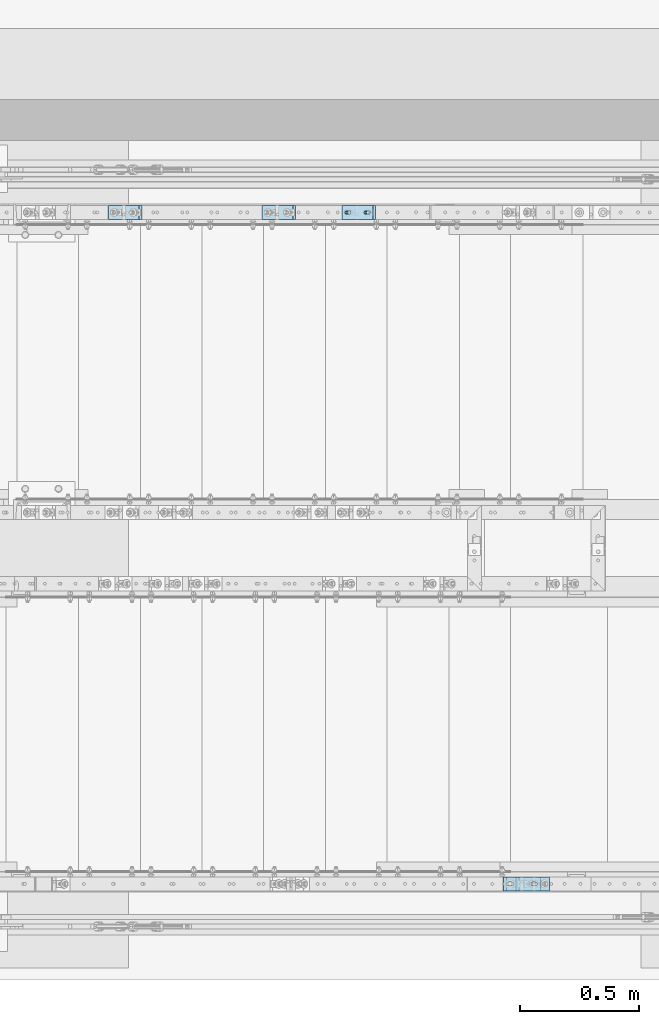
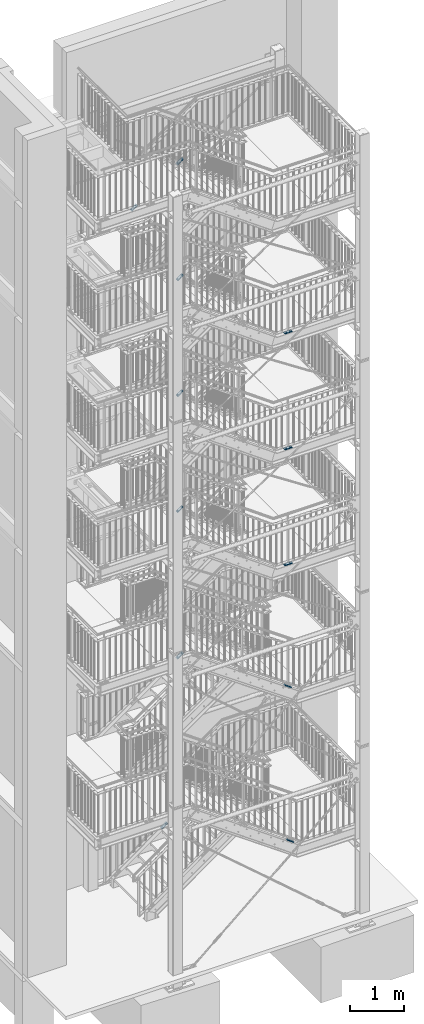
# One storey, part 193 of 821: 12 plates, 24 openings.
"""IFC2X3 building model written with IfcOpenShell, lengths in millimetres."""

from ifc_helpers import new_model, entity, si_unit, converted_unit, point, frame, frame_2d, origin, origin_with_axes, place, context, project, spatial, polyline, circle_curve, line_curve, trimmed, segment, composite_curve, outline, extrude, material, layer, layer_set, element, save


model = new_model("IFC2X3")

# Units and contexts
model_context = context("Model", 3, precision=1e-09, world=origin_with_axes())
ifc_project = project(units=[si_unit("LENGTHUNIT", "METRE", prefix="MILLI"), si_unit("AREAUNIT", "SQUARE_METRE"), si_unit("VOLUMEUNIT", "CUBIC_METRE"), converted_unit("PLANEANGLEUNIT", "DEGREE", entity("IfcPlaneAngleMeasure", 0.01745329), si_unit("PLANEANGLEUNIT", "RADIAN"), dimensions=[0, 0, 0, 0, 0, 0, 0])], contexts=[model_context])

# Site, building, storey
site_placement = place(None, origin_with_axes())
site = spatial("IfcSite", under=ifc_project, at=site_placement, Name="Cnopf'sche Kinderklinik", CompositionType="ELEMENT")
building_placement = place(site_placement, origin_with_axes())
building = spatial("IfcBuilding", under=site, at=building_placement, Name="Struktur 1", CompositionType="ELEMENT")
storey_placement = place(building_placement, origin_with_axes())
storey = spatial("IfcBuildingStorey", under=building, at=storey_placement, Name="Default Storey", CompositionType="ELEMENT", Elevation=0.0)

# Plate, openings
ifc_material = material(Name="S235JR")
ifc_layer = layer(ifc_material, 20.0)
ifc_layer_set = layer_set([ifc_layer], Name="S235JR")
plate_1_placement = place(None, frame((6411.464687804, 7386.736971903, 1391.461592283), z_axis=(-0.579973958, 0.0, 0.814635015), x_axis=(-0.814635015, 0.0, -0.579973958)))
plate_1 = element("IfcPlate", 1, at=plate_1_placement, inside=storey, material=ifc_layer_set, Name="Plate#501", ObjectType="Plate#501", context=model_context, shape_type="SweptSolid", body=[
    extrude(outline(polyline([(0.0, 0.0), (160.0, 0.0), (160.0, 60.0), (0.0, 60.0), (0.0, 0.0)])), origin_with_axes(), (0.0, 0.0, 1.0), 20.0),
])
opening_1_placement = place(plate_1_placement, frame((38.0, 37.001, 20.5), z_axis=(0.0, 0.0, 1.0), x_axis=(-1.0, 0.0, 0.0)))
element("IfcOpeningElement", 2, at=opening_1_placement, cuts=plate_1, ObjectType="Opening", context=model_context, shape_type="SweptSolid", body=[
    extrude(outline(composite_curve([segment(trimmed(line_curve((0.0, 0.0), (1.0, 0.0), 16.0), [point((0.0, 0.0))], [point((16.0, 0.0))], True, "CARTESIAN"), True, "CONTINUOUS"), segment(trimmed(circle_curve(frame_2d((16.0, 7.001), x_axis=(1.0, 0.0)), 7.001), [point((16.0, 0.0))], [point((16.0, 14.002))], True, "CARTESIAN"), True, "CONTINUOUS"), segment(trimmed(line_curve((16.0, 14.002), (-1.0, 0.0), 16.0), [point((16.0, 14.002))], [point((0.0, 14.002))], True, "CARTESIAN"), True, "CONTINUOUS"), segment(trimmed(circle_curve(frame_2d((0.0, 7.001), x_axis=(1.0, 0.0)), 7.001), [point((0.0, 14.002))], [point((0.0, 0.0))], True, "CARTESIAN"), True, "CONTINUOUS")], self_intersect=False)), origin(), (0.0, 0.0, -1.0), 21.0),
])
opening_2_placement = place(plate_1_placement, frame((138.0, 37.001, 20.5), z_axis=(0.0, 0.0, 1.0), x_axis=(-1.0, 0.0, 0.0)))
element("IfcOpeningElement", 3, at=opening_2_placement, cuts=plate_1, ObjectType="Opening", context=model_context, shape_type="SweptSolid", body=[
    extrude(outline(composite_curve([segment(trimmed(line_curve((0.0, 0.0), (1.0, 0.0), 16.0), [point((0.0, 0.0))], [point((16.0, 0.0))], True, "CARTESIAN"), True, "CONTINUOUS"), segment(trimmed(circle_curve(frame_2d((16.0, 7.001), x_axis=(1.0, 0.0)), 7.001), [point((16.0, 0.0))], [point((16.0, 14.002))], True, "CARTESIAN"), True, "CONTINUOUS"), segment(trimmed(line_curve((16.0, 14.002), (-1.0, 0.0), 16.0), [point((16.0, 14.002))], [point((0.0, 14.002))], True, "CARTESIAN"), True, "CONTINUOUS"), segment(trimmed(circle_curve(frame_2d((0.0, 7.001), x_axis=(1.0, 0.0)), 7.001), [point((0.0, 14.002))], [point((0.0, 0.0))], True, "CARTESIAN"), True, "CONTINUOUS")], self_intersect=False)), origin(), (0.0, 0.0, -1.0), 21.0),
])

plate_2_placement = place(None, frame((7340.422294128, 4496.736971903, 2389.278507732), z_axis=(0.579973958, 0.0, 0.814635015), x_axis=(0.814635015, 0.0, -0.579973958)))
plate_2 = element("IfcPlate", 4, at=plate_2_placement, inside=storey, material=ifc_layer_set, Name="Plate#508", ObjectType="Plate#508", context=model_context, shape_type="SweptSolid", body=[
    extrude(outline(polyline([(0.0, 0.0), (160.0, 0.0), (160.0, 60.0), (0.0, 60.0), (0.0, 0.0)])), origin_with_axes(), (0.0, 0.0, 1.0), 20.0),
])
opening_3_placement = place(plate_2_placement, frame((38.0, 37.001, 20.5), z_axis=(0.0, 0.0, 1.0), x_axis=(-1.0, 0.0, 0.0)))
element("IfcOpeningElement", 5, at=opening_3_placement, cuts=plate_2, ObjectType="Opening", context=model_context, shape_type="SweptSolid", body=[
    extrude(outline(composite_curve([segment(trimmed(line_curve((0.0, 0.0), (1.0, 0.0), 16.0), [point((0.0, 0.0))], [point((16.0, 0.0))], True, "CARTESIAN"), True, "CONTINUOUS"), segment(trimmed(circle_curve(frame_2d((16.0, 7.001), x_axis=(1.0, 0.0)), 7.001), [point((16.0, 0.0))], [point((16.0, 14.002))], True, "CARTESIAN"), True, "CONTINUOUS"), segment(trimmed(line_curve((16.0, 14.002), (-1.0, 0.0), 16.0), [point((16.0, 14.002))], [point((0.0, 14.002))], True, "CARTESIAN"), True, "CONTINUOUS"), segment(trimmed(circle_curve(frame_2d((0.0, 7.001), x_axis=(1.0, 0.0)), 7.001), [point((0.0, 14.002))], [point((0.0, 0.0))], True, "CARTESIAN"), True, "CONTINUOUS")], self_intersect=False)), origin(), (0.0, 0.0, -1.0), 21.0),
])
opening_4_placement = place(plate_2_placement, frame((138.0, 37.001, 20.5), z_axis=(0.0, 0.0, 1.0), x_axis=(-1.0, 0.0, 0.0)))
element("IfcOpeningElement", 6, at=opening_4_placement, cuts=plate_2, ObjectType="Opening", context=model_context, shape_type="SweptSolid", body=[
    extrude(outline(composite_curve([segment(trimmed(line_curve((0.0, 0.0), (1.0, 0.0), 16.0), [point((0.0, 0.0))], [point((16.0, 0.0))], True, "CARTESIAN"), True, "CONTINUOUS"), segment(trimmed(circle_curve(frame_2d((16.0, 7.001), x_axis=(1.0, 0.0)), 7.001), [point((16.0, 0.0))], [point((16.0, 14.002))], True, "CARTESIAN"), True, "CONTINUOUS"), segment(trimmed(line_curve((16.0, 14.002), (-1.0, 0.0), 16.0), [point((16.0, 14.002))], [point((0.0, 14.002))], True, "CARTESIAN"), True, "CONTINUOUS"), segment(trimmed(circle_curve(frame_2d((0.0, 7.001), x_axis=(1.0, 0.0)), 7.001), [point((0.0, 14.002))], [point((0.0, 0.0))], True, "CARTESIAN"), True, "CONTINUOUS")], self_intersect=False)), origin(), (0.0, 0.0, -1.0), 21.0),
])

plate_3_placement = place(None, frame((6748.73140129, 7386.736971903, 5132.793220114), z_axis=(-0.575128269, 0.0, 0.818063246), x_axis=(-0.818063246, 0.0, -0.575128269)))
plate_3 = element("IfcPlate", 7, at=plate_3_placement, inside=storey, material=ifc_layer_set, Name="Plate#502", ObjectType="Plate#502", context=model_context, shape_type="SweptSolid", body=[
    extrude(outline(polyline([(0.0, 0.0), (160.0, 0.0), (160.0, 60.0), (0.0, 60.0), (0.0, 0.0)])), origin_with_axes(), (0.0, 0.0, 1.0), 20.0),
])
opening_5_placement = place(plate_3_placement, frame((38.0, 37.001, 20.5), z_axis=(0.0, 0.0, 1.0), x_axis=(-1.0, 0.0, 0.0)))
element("IfcOpeningElement", 8, at=opening_5_placement, cuts=plate_3, ObjectType="Opening", context=model_context, shape_type="SweptSolid", body=[
    extrude(outline(composite_curve([segment(trimmed(line_curve((0.0, 0.0), (1.0, 0.0), 16.0), [point((0.0, 0.0))], [point((16.0, 0.0))], True, "CARTESIAN"), True, "CONTINUOUS"), segment(trimmed(circle_curve(frame_2d((16.0, 7.001), x_axis=(1.0, 0.0)), 7.001), [point((16.0, 0.0))], [point((16.0, 14.002))], True, "CARTESIAN"), True, "CONTINUOUS"), segment(trimmed(line_curve((16.0, 14.002), (-1.0, 0.0), 16.0), [point((16.0, 14.002))], [point((0.0, 14.002))], True, "CARTESIAN"), True, "CONTINUOUS"), segment(trimmed(circle_curve(frame_2d((0.0, 7.001), x_axis=(1.0, 0.0)), 7.001), [point((0.0, 14.002))], [point((0.0, 0.0))], True, "CARTESIAN"), True, "CONTINUOUS")], self_intersect=False)), origin(), (0.0, 0.0, -1.0), 21.0),
])
opening_6_placement = place(plate_3_placement, frame((138.0, 37.001, 20.5), z_axis=(0.0, 0.0, 1.0), x_axis=(-1.0, 0.0, 0.0)))
element("IfcOpeningElement", 9, at=opening_6_placement, cuts=plate_3, ObjectType="Opening", context=model_context, shape_type="SweptSolid", body=[
    extrude(outline(composite_curve([segment(trimmed(line_curve((0.0, 0.0), (1.0, 0.0), 16.0), [point((0.0, 0.0))], [point((16.0, 0.0))], True, "CARTESIAN"), True, "CONTINUOUS"), segment(trimmed(circle_curve(frame_2d((16.0, 7.001), x_axis=(1.0, 0.0)), 7.001), [point((16.0, 0.0))], [point((16.0, 14.002))], True, "CARTESIAN"), True, "CONTINUOUS"), segment(trimmed(line_curve((16.0, 14.002), (-1.0, 0.0), 16.0), [point((16.0, 14.002))], [point((0.0, 14.002))], True, "CARTESIAN"), True, "CONTINUOUS"), segment(trimmed(circle_curve(frame_2d((0.0, 7.001), x_axis=(1.0, 0.0)), 7.001), [point((0.0, 14.002))], [point((0.0, 0.0))], True, "CARTESIAN"), True, "CONTINUOUS")], self_intersect=False)), origin(), (0.0, 0.0, -1.0), 21.0),
])

plate_4_placement = place(None, frame((7287.774404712, 4496.736971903, 5918.029380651), z_axis=(0.57512827, 0.0, 0.818063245), x_axis=(0.818063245, 0.0, -0.57512827)))
plate_4 = element("IfcPlate", 10, at=plate_4_placement, inside=storey, material=ifc_layer_set, Name="Plate#509", ObjectType="Plate#509", context=model_context, shape_type="SweptSolid", body=[
    extrude(outline(polyline([(0.0, 0.0), (160.0, 0.0), (160.0, 60.0), (0.0, 60.0), (0.0, 0.0)])), origin_with_axes(), (0.0, 0.0, 1.0), 20.0),
])
opening_7_placement = place(plate_4_placement, frame((38.0, 37.001, 20.5), z_axis=(0.0, 0.0, 1.0), x_axis=(-1.0, 0.0, 0.0)))
element("IfcOpeningElement", 11, at=opening_7_placement, cuts=plate_4, ObjectType="Opening", context=model_context, shape_type="SweptSolid", body=[
    extrude(outline(composite_curve([segment(trimmed(line_curve((0.0, 0.0), (1.0, 0.0), 16.0), [point((0.0, 0.0))], [point((16.0, 0.0))], True, "CARTESIAN"), True, "CONTINUOUS"), segment(trimmed(circle_curve(frame_2d((16.0, 7.001), x_axis=(1.0, 0.0)), 7.001), [point((16.0, 0.0))], [point((16.0, 14.002))], True, "CARTESIAN"), True, "CONTINUOUS"), segment(trimmed(line_curve((16.0, 14.002), (-1.0, 0.0), 16.0), [point((16.0, 14.002))], [point((0.0, 14.002))], True, "CARTESIAN"), True, "CONTINUOUS"), segment(trimmed(circle_curve(frame_2d((0.0, 7.001), x_axis=(1.0, 0.0)), 7.001), [point((0.0, 14.002))], [point((0.0, 0.0))], True, "CARTESIAN"), True, "CONTINUOUS")], self_intersect=False)), origin(), (0.0, 0.0, -1.0), 21.0),
])
opening_8_placement = place(plate_4_placement, frame((138.0, 37.001, 20.5), z_axis=(0.0, 0.0, 1.0), x_axis=(-1.0, 0.0, 0.0)))
element("IfcOpeningElement", 12, at=opening_8_placement, cuts=plate_4, ObjectType="Opening", context=model_context, shape_type="SweptSolid", body=[
    extrude(outline(composite_curve([segment(trimmed(line_curve((0.0, 0.0), (1.0, 0.0), 16.0), [point((0.0, 0.0))], [point((16.0, 0.0))], True, "CARTESIAN"), True, "CONTINUOUS"), segment(trimmed(circle_curve(frame_2d((16.0, 7.001), x_axis=(1.0, 0.0)), 7.001), [point((16.0, 0.0))], [point((16.0, 14.002))], True, "CARTESIAN"), True, "CONTINUOUS"), segment(trimmed(line_curve((16.0, 14.002), (-1.0, 0.0), 16.0), [point((16.0, 14.002))], [point((0.0, 14.002))], True, "CARTESIAN"), True, "CONTINUOUS"), segment(trimmed(circle_curve(frame_2d((0.0, 7.001), x_axis=(1.0, 0.0)), 7.001), [point((0.0, 14.002))], [point((0.0, 0.0))], True, "CARTESIAN"), True, "CONTINUOUS")], self_intersect=False)), origin(), (0.0, 0.0, -1.0), 21.0),
])

plate_5_placement = place(None, frame((6748.2363053, 7386.736971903, 8452.94732936), z_axis=(-0.585945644, 0.0, 0.810350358), x_axis=(-0.810350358, 0.0, -0.585945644)))
plate_5 = element("IfcPlate", 13, at=plate_5_placement, inside=storey, material=ifc_layer_set, Name="Plate#502", ObjectType="Plate#502", context=model_context, shape_type="SweptSolid", body=[
    extrude(outline(polyline([(0.0, 0.0), (160.0, 0.0), (160.0, 60.0), (0.0, 60.0), (0.0, 0.0)])), origin_with_axes(), (0.0, 0.0, 1.0), 20.0),
])
opening_9_placement = place(plate_5_placement, frame((38.0, 37.001, 20.5), z_axis=(0.0, 0.0, 1.0), x_axis=(-1.0, 0.0, 0.0)))
element("IfcOpeningElement", 14, at=opening_9_placement, cuts=plate_5, ObjectType="Opening", context=model_context, shape_type="SweptSolid", body=[
    extrude(outline(composite_curve([segment(trimmed(line_curve((0.0, 0.0), (1.0, 0.0), 16.0), [point((0.0, 0.0))], [point((16.0, 0.0))], True, "CARTESIAN"), True, "CONTINUOUS"), segment(trimmed(circle_curve(frame_2d((16.0, 7.001), x_axis=(1.0, 0.0)), 7.001), [point((16.0, 0.0))], [point((16.0, 14.002))], True, "CARTESIAN"), True, "CONTINUOUS"), segment(trimmed(line_curve((16.0, 14.002), (-1.0, 0.0), 16.0), [point((16.0, 14.002))], [point((0.0, 14.002))], True, "CARTESIAN"), True, "CONTINUOUS"), segment(trimmed(circle_curve(frame_2d((0.0, 7.001), x_axis=(1.0, 0.0)), 7.001), [point((0.0, 14.002))], [point((0.0, 0.0))], True, "CARTESIAN"), True, "CONTINUOUS")], self_intersect=False)), origin(), (0.0, 0.0, -1.0), 21.0),
])
opening_10_placement = place(plate_5_placement, frame((138.0, 37.001, 20.5), z_axis=(0.0, 0.0, 1.0), x_axis=(-1.0, 0.0, 0.0)))
element("IfcOpeningElement", 15, at=opening_10_placement, cuts=plate_5, ObjectType="Opening", context=model_context, shape_type="SweptSolid", body=[
    extrude(outline(composite_curve([segment(trimmed(line_curve((0.0, 0.0), (1.0, 0.0), 16.0), [point((0.0, 0.0))], [point((16.0, 0.0))], True, "CARTESIAN"), True, "CONTINUOUS"), segment(trimmed(circle_curve(frame_2d((16.0, 7.001), x_axis=(1.0, 0.0)), 7.001), [point((16.0, 0.0))], [point((16.0, 14.002))], True, "CARTESIAN"), True, "CONTINUOUS"), segment(trimmed(line_curve((16.0, 14.002), (-1.0, 0.0), 16.0), [point((16.0, 14.002))], [point((0.0, 14.002))], True, "CARTESIAN"), True, "CONTINUOUS"), segment(trimmed(circle_curve(frame_2d((0.0, 7.001), x_axis=(1.0, 0.0)), 7.001), [point((0.0, 14.002))], [point((0.0, 0.0))], True, "CARTESIAN"), True, "CONTINUOUS")], self_intersect=False)), origin(), (0.0, 0.0, -1.0), 21.0),
])

plate_6_placement = place(None, frame((7284.792117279, 4496.736971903, 8636.0), z_axis=(0.0, 0.0, 1.0), x_axis=(1.0, 0.0, 0.0)))
plate_6 = element("IfcPlate", 16, at=plate_6_placement, inside=storey, material=ifc_layer_set, Name="Plate#509", ObjectType="Plate#509", context=model_context, shape_type="SweptSolid", body=[
    extrude(outline(polyline([(0.0, 0.0), (160.0, 0.0), (160.0, 60.0), (0.0, 60.0), (0.0, 0.0)])), origin_with_axes(), (0.0, 0.0, 1.0), 20.0),
])
opening_11_placement = place(plate_6_placement, frame((38.0, 37.001, 20.5), z_axis=(0.0, 0.0, 1.0), x_axis=(-1.0, 0.0, 0.0)))
element("IfcOpeningElement", 17, at=opening_11_placement, cuts=plate_6, ObjectType="Opening", context=model_context, shape_type="SweptSolid", body=[
    extrude(outline(composite_curve([segment(trimmed(line_curve((0.0, 0.0), (1.0, 0.0), 16.0), [point((0.0, 0.0))], [point((16.0, 0.0))], True, "CARTESIAN"), True, "CONTINUOUS"), segment(trimmed(circle_curve(frame_2d((16.0, 7.001), x_axis=(1.0, 0.0)), 7.001), [point((16.0, 0.0))], [point((16.0, 14.002))], True, "CARTESIAN"), True, "CONTINUOUS"), segment(trimmed(line_curve((16.0, 14.002), (-1.0, 0.0), 16.0), [point((16.0, 14.002))], [point((0.0, 14.002))], True, "CARTESIAN"), True, "CONTINUOUS"), segment(trimmed(circle_curve(frame_2d((0.0, 7.001), x_axis=(1.0, 0.0)), 7.001), [point((0.0, 14.002))], [point((0.0, 0.0))], True, "CARTESIAN"), True, "CONTINUOUS")], self_intersect=False)), origin(), (0.0, 0.0, -1.0), 21.0),
])
opening_12_placement = place(plate_6_placement, frame((138.0, 37.001, 20.5), z_axis=(0.0, 0.0, 1.0), x_axis=(-1.0, 0.0, 0.0)))
element("IfcOpeningElement", 18, at=opening_12_placement, cuts=plate_6, ObjectType="Opening", context=model_context, shape_type="SweptSolid", body=[
    extrude(outline(composite_curve([segment(trimmed(line_curve((0.0, 0.0), (1.0, 0.0), 16.0), [point((0.0, 0.0))], [point((16.0, 0.0))], True, "CARTESIAN"), True, "CONTINUOUS"), segment(trimmed(circle_curve(frame_2d((16.0, 7.001), x_axis=(1.0, 0.0)), 7.001), [point((16.0, 0.0))], [point((16.0, 14.002))], True, "CARTESIAN"), True, "CONTINUOUS"), segment(trimmed(line_curve((16.0, 14.002), (-1.0, 0.0), 16.0), [point((16.0, 14.002))], [point((0.0, 14.002))], True, "CARTESIAN"), True, "CONTINUOUS"), segment(trimmed(circle_curve(frame_2d((0.0, 7.001), x_axis=(1.0, 0.0)), 7.001), [point((0.0, 14.002))], [point((0.0, 0.0))], True, "CARTESIAN"), True, "CONTINUOUS")], self_intersect=False)), origin(), (0.0, 0.0, -1.0), 21.0),
])

plate_7_placement = place(None, frame((6748.281324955, 7386.736971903, 11082.903552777), z_axis=(-0.585213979, 0.0, 0.810878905), x_axis=(-0.810878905, 0.0, -0.585213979)))
plate_7 = element("IfcPlate", 19, at=plate_7_placement, inside=storey, material=ifc_layer_set, Name="Plate#502", ObjectType="Plate#502", context=model_context, shape_type="SweptSolid", body=[
    extrude(outline(polyline([(0.0, 0.0), (160.0, 0.0), (160.0, 60.0), (0.0, 60.0), (0.0, 0.0)])), origin_with_axes(), (0.0, 0.0, 1.0), 20.0),
])
opening_13_placement = place(plate_7_placement, frame((38.0, 37.001, 20.5), z_axis=(0.0, 0.0, 1.0), x_axis=(-1.0, 0.0, 0.0)))
element("IfcOpeningElement", 20, at=opening_13_placement, cuts=plate_7, ObjectType="Opening", context=model_context, shape_type="SweptSolid", body=[
    extrude(outline(composite_curve([segment(trimmed(line_curve((0.0, 0.0), (1.0, 0.0), 16.0), [point((0.0, 0.0))], [point((16.0, 0.0))], True, "CARTESIAN"), True, "CONTINUOUS"), segment(trimmed(circle_curve(frame_2d((16.0, 7.001), x_axis=(1.0, 0.0)), 7.001), [point((16.0, 0.0))], [point((16.0, 14.002))], True, "CARTESIAN"), True, "CONTINUOUS"), segment(trimmed(line_curve((16.0, 14.002), (-1.0, 0.0), 16.0), [point((16.0, 14.002))], [point((0.0, 14.002))], True, "CARTESIAN"), True, "CONTINUOUS"), segment(trimmed(circle_curve(frame_2d((0.0, 7.001), x_axis=(1.0, 0.0)), 7.001), [point((0.0, 14.002))], [point((0.0, 0.0))], True, "CARTESIAN"), True, "CONTINUOUS")], self_intersect=False)), origin(), (0.0, 0.0, -1.0), 21.0),
])
opening_14_placement = place(plate_7_placement, frame((138.0, 37.001, 20.5), z_axis=(0.0, 0.0, 1.0), x_axis=(-1.0, 0.0, 0.0)))
element("IfcOpeningElement", 21, at=opening_14_placement, cuts=plate_7, ObjectType="Opening", context=model_context, shape_type="SweptSolid", body=[
    extrude(outline(composite_curve([segment(trimmed(line_curve((0.0, 0.0), (1.0, 0.0), 16.0), [point((0.0, 0.0))], [point((16.0, 0.0))], True, "CARTESIAN"), True, "CONTINUOUS"), segment(trimmed(circle_curve(frame_2d((16.0, 7.001), x_axis=(1.0, 0.0)), 7.001), [point((16.0, 0.0))], [point((16.0, 14.002))], True, "CARTESIAN"), True, "CONTINUOUS"), segment(trimmed(line_curve((16.0, 14.002), (-1.0, 0.0), 16.0), [point((16.0, 14.002))], [point((0.0, 14.002))], True, "CARTESIAN"), True, "CONTINUOUS"), segment(trimmed(circle_curve(frame_2d((0.0, 7.001), x_axis=(1.0, 0.0)), 7.001), [point((0.0, 14.002))], [point((0.0, 0.0))], True, "CARTESIAN"), True, "CONTINUOUS")], self_intersect=False)), origin(), (0.0, 0.0, -1.0), 21.0),
])

plate_8_placement = place(None, frame((7284.792117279, 4496.736971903, 11265.5000003), z_axis=(0.0, 0.0, 1.0), x_axis=(1.0, 0.0, 0.0)))
plate_8 = element("IfcPlate", 22, at=plate_8_placement, inside=storey, material=ifc_layer_set, Name="Plate#509", ObjectType="Plate#509", context=model_context, shape_type="SweptSolid", body=[
    extrude(outline(polyline([(0.0, 0.0), (160.0, 0.0), (160.0, 60.0), (0.0, 60.0), (0.0, 0.0)])), origin_with_axes(), (0.0, 0.0, 1.0), 20.0),
])
opening_15_placement = place(plate_8_placement, frame((38.0, 37.001, 20.5), z_axis=(0.0, 0.0, 1.0), x_axis=(-1.0, 0.0, 0.0)))
element("IfcOpeningElement", 23, at=opening_15_placement, cuts=plate_8, ObjectType="Opening", context=model_context, shape_type="SweptSolid", body=[
    extrude(outline(composite_curve([segment(trimmed(line_curve((0.0, 0.0), (1.0, 0.0), 16.0), [point((0.0, 0.0))], [point((16.0, 0.0))], True, "CARTESIAN"), True, "CONTINUOUS"), segment(trimmed(circle_curve(frame_2d((16.0, 7.001), x_axis=(1.0, 0.0)), 7.001), [point((16.0, 0.0))], [point((16.0, 14.002))], True, "CARTESIAN"), True, "CONTINUOUS"), segment(trimmed(line_curve((16.0, 14.002), (-1.0, 0.0), 16.0), [point((16.0, 14.002))], [point((0.0, 14.002))], True, "CARTESIAN"), True, "CONTINUOUS"), segment(trimmed(circle_curve(frame_2d((0.0, 7.001), x_axis=(1.0, 0.0)), 7.001), [point((0.0, 14.002))], [point((0.0, 0.0))], True, "CARTESIAN"), True, "CONTINUOUS")], self_intersect=False)), origin(), (0.0, 0.0, -1.0), 21.0),
])
opening_16_placement = place(plate_8_placement, frame((138.0, 37.001, 20.5), z_axis=(0.0, 0.0, 1.0), x_axis=(-1.0, 0.0, 0.0)))
element("IfcOpeningElement", 24, at=opening_16_placement, cuts=plate_8, ObjectType="Opening", context=model_context, shape_type="SweptSolid", body=[
    extrude(outline(composite_curve([segment(trimmed(line_curve((0.0, 0.0), (1.0, 0.0), 16.0), [point((0.0, 0.0))], [point((16.0, 0.0))], True, "CARTESIAN"), True, "CONTINUOUS"), segment(trimmed(circle_curve(frame_2d((16.0, 7.001), x_axis=(1.0, 0.0)), 7.001), [point((16.0, 0.0))], [point((16.0, 14.002))], True, "CARTESIAN"), True, "CONTINUOUS"), segment(trimmed(line_curve((16.0, 14.002), (-1.0, 0.0), 16.0), [point((16.0, 14.002))], [point((0.0, 14.002))], True, "CARTESIAN"), True, "CONTINUOUS"), segment(trimmed(circle_curve(frame_2d((0.0, 7.001), x_axis=(1.0, 0.0)), 7.001), [point((0.0, 14.002))], [point((0.0, 0.0))], True, "CARTESIAN"), True, "CONTINUOUS")], self_intersect=False)), origin(), (0.0, 0.0, -1.0), 21.0),
])

plate_9_placement = place(None, frame((6748.209294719, 7386.736971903, 13713.173537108), z_axis=(-0.586383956, 0.0, 0.810033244), x_axis=(-0.810033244, 0.0, -0.586383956)))
plate_9 = element("IfcPlate", 25, at=plate_9_placement, inside=storey, material=ifc_layer_set, Name="Plate#502", ObjectType="Plate#502", context=model_context, shape_type="SweptSolid", body=[
    extrude(outline(polyline([(0.0, 0.0), (160.0, 0.0), (160.0, 60.0), (0.0, 60.0), (0.0, 0.0)])), origin_with_axes(), (0.0, 0.0, 1.0), 20.0),
])
opening_17_placement = place(plate_9_placement, frame((38.0, 37.001, 20.5), z_axis=(0.0, 0.0, 1.0), x_axis=(-1.0, 0.0, 0.0)))
element("IfcOpeningElement", 26, at=opening_17_placement, cuts=plate_9, ObjectType="Opening", context=model_context, shape_type="SweptSolid", body=[
    extrude(outline(composite_curve([segment(trimmed(line_curve((0.0, 0.0), (1.0, 0.0), 16.0), [point((0.0, 0.0))], [point((16.0, 0.0))], True, "CARTESIAN"), True, "CONTINUOUS"), segment(trimmed(circle_curve(frame_2d((16.0, 7.001), x_axis=(1.0, 0.0)), 7.001), [point((16.0, 0.0))], [point((16.0, 14.002))], True, "CARTESIAN"), True, "CONTINUOUS"), segment(trimmed(line_curve((16.0, 14.002), (-1.0, 0.0), 16.0), [point((16.0, 14.002))], [point((0.0, 14.002))], True, "CARTESIAN"), True, "CONTINUOUS"), segment(trimmed(circle_curve(frame_2d((0.0, 7.001), x_axis=(1.0, 0.0)), 7.001), [point((0.0, 14.002))], [point((0.0, 0.0))], True, "CARTESIAN"), True, "CONTINUOUS")], self_intersect=False)), origin(), (0.0, 0.0, -1.0), 21.0),
])
opening_18_placement = place(plate_9_placement, frame((138.0, 37.001, 20.5), z_axis=(0.0, 0.0, 1.0), x_axis=(-1.0, 0.0, 0.0)))
element("IfcOpeningElement", 27, at=opening_18_placement, cuts=plate_9, ObjectType="Opening", context=model_context, shape_type="SweptSolid", body=[
    extrude(outline(composite_curve([segment(trimmed(line_curve((0.0, 0.0), (1.0, 0.0), 16.0), [point((0.0, 0.0))], [point((16.0, 0.0))], True, "CARTESIAN"), True, "CONTINUOUS"), segment(trimmed(circle_curve(frame_2d((16.0, 7.001), x_axis=(1.0, 0.0)), 7.001), [point((16.0, 0.0))], [point((16.0, 14.002))], True, "CARTESIAN"), True, "CONTINUOUS"), segment(trimmed(line_curve((16.0, 14.002), (-1.0, 0.0), 16.0), [point((16.0, 14.002))], [point((0.0, 14.002))], True, "CARTESIAN"), True, "CONTINUOUS"), segment(trimmed(circle_curve(frame_2d((0.0, 7.001), x_axis=(1.0, 0.0)), 7.001), [point((0.0, 14.002))], [point((0.0, 0.0))], True, "CARTESIAN"), True, "CONTINUOUS")], self_intersect=False)), origin(), (0.0, 0.0, -1.0), 21.0),
])

plate_10_placement = place(None, frame((7284.792117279, 4496.736971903, 13896.5000001), z_axis=(0.0, 0.0, 1.0), x_axis=(1.0, 0.0, 0.0)))
plate_10 = element("IfcPlate", 28, at=plate_10_placement, inside=storey, material=ifc_layer_set, Name="Plate#509", ObjectType="Plate#509", context=model_context, shape_type="SweptSolid", body=[
    extrude(outline(polyline([(0.0, 0.0), (160.0, 0.0), (160.0, 60.0), (0.0, 60.0), (0.0, 0.0)])), origin_with_axes(), (0.0, 0.0, 1.0), 20.0),
])
opening_19_placement = place(plate_10_placement, frame((38.0, 37.001, 20.5), z_axis=(0.0, 0.0, 1.0), x_axis=(-1.0, 0.0, 0.0)))
element("IfcOpeningElement", 29, at=opening_19_placement, cuts=plate_10, ObjectType="Opening", context=model_context, shape_type="SweptSolid", body=[
    extrude(outline(composite_curve([segment(trimmed(line_curve((0.0, 0.0), (1.0, 0.0), 16.0), [point((0.0, 0.0))], [point((16.0, 0.0))], True, "CARTESIAN"), True, "CONTINUOUS"), segment(trimmed(circle_curve(frame_2d((16.0, 7.001), x_axis=(1.0, 0.0)), 7.001), [point((16.0, 0.0))], [point((16.0, 14.002))], True, "CARTESIAN"), True, "CONTINUOUS"), segment(trimmed(line_curve((16.0, 14.002), (-1.0, 0.0), 16.0), [point((16.0, 14.002))], [point((0.0, 14.002))], True, "CARTESIAN"), True, "CONTINUOUS"), segment(trimmed(circle_curve(frame_2d((0.0, 7.001), x_axis=(1.0, 0.0)), 7.001), [point((0.0, 14.002))], [point((0.0, 0.0))], True, "CARTESIAN"), True, "CONTINUOUS")], self_intersect=False)), origin(), (0.0, 0.0, -1.0), 21.0),
])
opening_20_placement = place(plate_10_placement, frame((138.0, 37.001, 20.5), z_axis=(0.0, 0.0, 1.0), x_axis=(-1.0, 0.0, 0.0)))
element("IfcOpeningElement", 30, at=opening_20_placement, cuts=plate_10, ObjectType="Opening", context=model_context, shape_type="SweptSolid", body=[
    extrude(outline(composite_curve([segment(trimmed(line_curve((0.0, 0.0), (1.0, 0.0), 16.0), [point((0.0, 0.0))], [point((16.0, 0.0))], True, "CARTESIAN"), True, "CONTINUOUS"), segment(trimmed(circle_curve(frame_2d((16.0, 7.001), x_axis=(1.0, 0.0)), 7.001), [point((16.0, 0.0))], [point((16.0, 14.002))], True, "CARTESIAN"), True, "CONTINUOUS"), segment(trimmed(line_curve((16.0, 14.002), (-1.0, 0.0), 16.0), [point((16.0, 14.002))], [point((0.0, 14.002))], True, "CARTESIAN"), True, "CONTINUOUS"), segment(trimmed(circle_curve(frame_2d((0.0, 7.001), x_axis=(1.0, 0.0)), 7.001), [point((0.0, 14.002))], [point((0.0, 0.0))], True, "CARTESIAN"), True, "CONTINUOUS")], self_intersect=False)), origin(), (0.0, 0.0, -1.0), 21.0),
])

plate_11_placement = place(None, frame((5763.344213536, 7386.736971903, 15633.058440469), z_axis=(-0.584187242, 0.0, 0.811618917), x_axis=(-0.811618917, 0.0, -0.584187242)))
plate_11 = element("IfcPlate", 31, at=plate_11_placement, inside=storey, material=ifc_layer_set, Name="Plate#501", ObjectType="Plate#501", context=model_context, shape_type="SweptSolid", body=[
    extrude(outline(polyline([(0.0, 0.0), (160.0, 0.0), (160.0, 60.0), (0.0, 60.0), (0.0, 0.0)])), origin_with_axes(), (0.0, 0.0, 1.0), 20.0),
])
opening_21_placement = place(plate_11_placement, frame((38.0, 37.001, 20.5), z_axis=(0.0, 0.0, 1.0), x_axis=(-1.0, 0.0, 0.0)))
element("IfcOpeningElement", 32, at=opening_21_placement, cuts=plate_11, ObjectType="Opening", context=model_context, shape_type="SweptSolid", body=[
    extrude(outline(composite_curve([segment(trimmed(line_curve((0.0, 0.0), (1.0, 0.0), 16.0), [point((0.0, 0.0))], [point((16.0, 0.0))], True, "CARTESIAN"), True, "CONTINUOUS"), segment(trimmed(circle_curve(frame_2d((16.0, 7.001), x_axis=(1.0, 0.0)), 7.001), [point((16.0, 0.0))], [point((16.0, 14.002))], True, "CARTESIAN"), True, "CONTINUOUS"), segment(trimmed(line_curve((16.0, 14.002), (-1.0, 0.0), 16.0), [point((16.0, 14.002))], [point((0.0, 14.002))], True, "CARTESIAN"), True, "CONTINUOUS"), segment(trimmed(circle_curve(frame_2d((0.0, 7.001), x_axis=(1.0, 0.0)), 7.001), [point((0.0, 14.002))], [point((0.0, 0.0))], True, "CARTESIAN"), True, "CONTINUOUS")], self_intersect=False)), origin(), (0.0, 0.0, -1.0), 21.0),
])
opening_22_placement = place(plate_11_placement, frame((138.0, 37.001, 20.5), z_axis=(0.0, 0.0, 1.0), x_axis=(-1.0, 0.0, 0.0)))
element("IfcOpeningElement", 33, at=opening_22_placement, cuts=plate_11, ObjectType="Opening", context=model_context, shape_type="SweptSolid", body=[
    extrude(outline(composite_curve([segment(trimmed(line_curve((0.0, 0.0), (1.0, 0.0), 16.0), [point((0.0, 0.0))], [point((16.0, 0.0))], True, "CARTESIAN"), True, "CONTINUOUS"), segment(trimmed(circle_curve(frame_2d((16.0, 7.001), x_axis=(1.0, 0.0)), 7.001), [point((16.0, 0.0))], [point((16.0, 14.002))], True, "CARTESIAN"), True, "CONTINUOUS"), segment(trimmed(line_curve((16.0, 14.002), (-1.0, 0.0), 16.0), [point((16.0, 14.002))], [point((0.0, 14.002))], True, "CARTESIAN"), True, "CONTINUOUS"), segment(trimmed(circle_curve(frame_2d((0.0, 7.001), x_axis=(1.0, 0.0)), 7.001), [point((0.0, 14.002))], [point((0.0, 0.0))], True, "CARTESIAN"), True, "CONTINUOUS")], self_intersect=False)), origin(), (0.0, 0.0, -1.0), 21.0),
])

plate_12_placement = place(None, frame((6748.344356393, 7386.736971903, 16342.042059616), z_axis=(-0.584187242, 0.0, 0.811618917), x_axis=(-0.811618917, 0.0, -0.584187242)))
plate_12 = element("IfcPlate", 34, at=plate_12_placement, inside=storey, material=ifc_layer_set, Name="Plate#502", ObjectType="Plate#502", context=model_context, shape_type="SweptSolid", body=[
    extrude(outline(polyline([(0.0, 0.0), (160.0, 0.0), (160.0, 60.0), (0.0, 60.0), (0.0, 0.0)])), origin_with_axes(), (0.0, 0.0, 1.0), 20.0),
])
opening_23_placement = place(plate_12_placement, frame((38.0, 37.001, 20.5), z_axis=(0.0, 0.0, 1.0), x_axis=(-1.0, 0.0, 0.0)))
element("IfcOpeningElement", 35, at=opening_23_placement, cuts=plate_12, ObjectType="Opening", context=model_context, shape_type="SweptSolid", body=[
    extrude(outline(composite_curve([segment(trimmed(line_curve((0.0, 0.0), (1.0, 0.0), 16.0), [point((0.0, 0.0))], [point((16.0, 0.0))], True, "CARTESIAN"), True, "CONTINUOUS"), segment(trimmed(circle_curve(frame_2d((16.0, 7.001), x_axis=(1.0, 0.0)), 7.001), [point((16.0, 0.0))], [point((16.0, 14.002))], True, "CARTESIAN"), True, "CONTINUOUS"), segment(trimmed(line_curve((16.0, 14.002), (-1.0, 0.0), 16.0), [point((16.0, 14.002))], [point((0.0, 14.002))], True, "CARTESIAN"), True, "CONTINUOUS"), segment(trimmed(circle_curve(frame_2d((0.0, 7.001), x_axis=(1.0, 0.0)), 7.001), [point((0.0, 14.002))], [point((0.0, 0.0))], True, "CARTESIAN"), True, "CONTINUOUS")], self_intersect=False)), origin(), (0.0, 0.0, -1.0), 21.0),
])
opening_24_placement = place(plate_12_placement, frame((138.0, 37.001, 20.5), z_axis=(0.0, 0.0, 1.0), x_axis=(-1.0, 0.0, 0.0)))
element("IfcOpeningElement", 36, at=opening_24_placement, cuts=plate_12, ObjectType="Opening", context=model_context, shape_type="SweptSolid", body=[
    extrude(outline(composite_curve([segment(trimmed(line_curve((0.0, 0.0), (1.0, 0.0), 16.0), [point((0.0, 0.0))], [point((16.0, 0.0))], True, "CARTESIAN"), True, "CONTINUOUS"), segment(trimmed(circle_curve(frame_2d((16.0, 7.001), x_axis=(1.0, 0.0)), 7.001), [point((16.0, 0.0))], [point((16.0, 14.002))], True, "CARTESIAN"), True, "CONTINUOUS"), segment(trimmed(line_curve((16.0, 14.002), (-1.0, 0.0), 16.0), [point((16.0, 14.002))], [point((0.0, 14.002))], True, "CARTESIAN"), True, "CONTINUOUS"), segment(trimmed(circle_curve(frame_2d((0.0, 7.001), x_axis=(1.0, 0.0)), 7.001), [point((0.0, 14.002))], [point((0.0, 0.0))], True, "CARTESIAN"), True, "CONTINUOUS")], self_intersect=False)), origin(), (0.0, 0.0, -1.0), 21.0),
])

save(model, "model.ifc")
